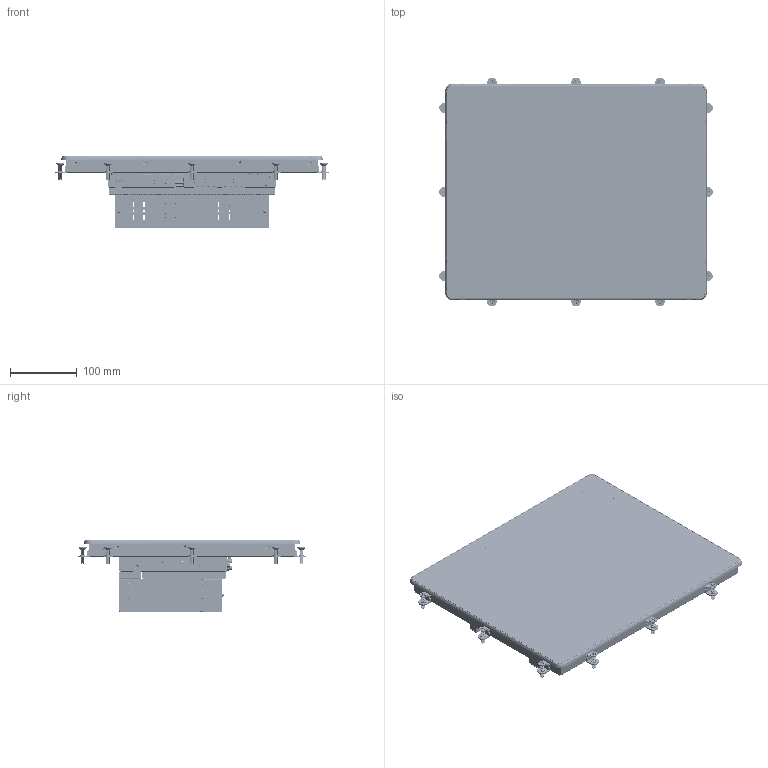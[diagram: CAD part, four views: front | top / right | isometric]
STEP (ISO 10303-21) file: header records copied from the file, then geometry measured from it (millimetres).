
FILE_DESCRIPTION((''),'2;1');
FILE_NAME('NP2A-170-Z','2026-06-02T13:50:51',('gijyu181'),(''),'CREO PARAMETRIC BY PTC INC, 2018050','CREO PARAMETRIC BY PTC INC, 2018050','');
FILE_SCHEMA(('CONFIG_CONTROL_DESIGN','SHAPE_APPEARANCE_LAYERS_GROUPS'));
Products named in the file (1): NP2A-170-Z
Bounding box: 410.1 x 342.6 x 108.1 mm (x, y, z)
Volume: 2333188.2 mm3; surface area: 1442237.3 mm2
Topology: 39 solids, 133 shells, 35196 faces, 102140 edges, 67313 vertices
Faces by surface type: plane 23134, cylinder 8786, extrusion 1557, bspline 587, cone 558, torus 433, sphere 125, revolution 16
Entity records: 1453717 total; most frequent: CARTESIAN_POINT 334442, ORIENTED_EDGE 203159, DIRECTION 180752, EDGE_CURVE 102064, VECTOR 78554, LINE 76997, VERTEX_POINT 67314, AXIS2_PLACEMENT_3D 51091
